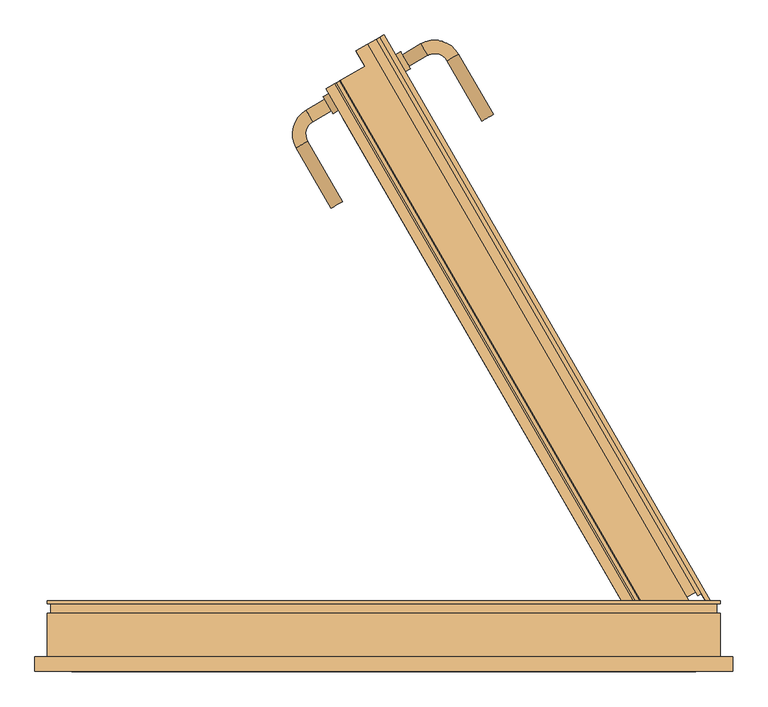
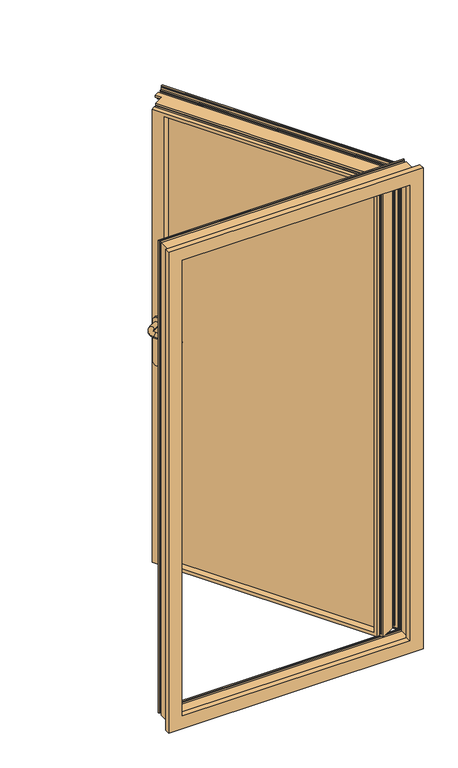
"""IFC4 building model written with IfcOpenShell, lengths in millimetres: door geometry, Comfort+_CID-1_Metaglas : Comfort+_CID-1_Metaglas."""

from ifc_helpers import new_model, si_unit, point, frame, frame_2d, origin, place, context, project, spatial, polyline, circle_curve, ellipse_curve, trimmed, segment, composite_curve, outline, extrude, faceted_brep, source, transform, mapped, element, save
from ifc_brep_helpers import plane_surface, cylinder_surface, revolved_surface, advanced_brep


def door_f65b9b94(model_context):
    return source(origin(), model_context, "Body", "SolidModel", [
        extrude(outline(composite_curve([segment(polyline([(-142.592674, 0.0), (30.413355, 0.0)]), True, "CONTINUOUS"), segment(trimmed(circle_curve(frame_2d((30.413355, -14.0)), 14.0), [point((30.413355, 0.0))], [point((30.413355, -28.0000001))], False, "CARTESIAN"), True, "CONTINUOUS"), segment(polyline([(30.413355, -28.0000001), (-142.592674, -28.0000001)]), True, "CONTINUOUS"), segment(trimmed(circle_curve(frame_2d((-142.592674, -14.0)), 14.0), [point((-142.592674, -28.0000001))], [point((-142.592674, 0.0))], False, "CARTESIAN"), True, "CONTINUOUS")], self_intersect=False)), frame((-86.9034117, 773.3209521, 1040.9152867), z_axis=(0.8660254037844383, 0.5000000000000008, 0.0), x_axis=(0.0, 0.0, -1.0)), (0.0, 0.0, 1.0), 9.0),
        advanced_brep(
        [(-84.6534117, 769.4238377, 1170.0), (-75.1534117, 752.9693551, 1170.0), (-111.0671865, 754.1738377, 1170.0), (-101.5671865, 737.7193551, 1170.0), (-109.0707073, 709.7158343, 1170.0), (-125.5251899, 700.2158343, 1170.0), (-75.5251899, 613.6132939, 1170.0), (-59.0707073, 623.1132939, 1170.0)],
        [
            (0, 1, circle_curve(frame((-79.9034117, 761.1965964, 1170.0), z_axis=(0.8660254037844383, 0.5000000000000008, 0.0), x_axis=(0.5000000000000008, -0.8660254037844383, 0.0)), 9.5)),
            (1, 0, circle_curve(frame((-79.9034117, 761.1965964, 1170.0), z_axis=(0.8660254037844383, 0.5000000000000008, 0.0), x_axis=(0.5000000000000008, -0.8660254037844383, 0.0)), 9.5)),
            (0, 2),
            (2, 3, circle_curve(frame((-106.3171865, 745.9465964, 1170.0), z_axis=(0.8660254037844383, 0.5000000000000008, 0.0), x_axis=(0.5000000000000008, -0.8660254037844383, 0.0)), 9.5)),
            (3, 1),
            (3, 2, circle_curve(frame((-106.3171865, 745.9465964, 1170.0), z_axis=(0.8660254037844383, 0.5000000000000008, 0.0), x_axis=(0.5000000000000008, -0.8660254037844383, 0.0)), 9.5)),
            (4, 3, circle_curve(frame((-91.3171865, 719.9658343, 1170.0), z_axis=(0.0, 0.0, -1.0), x_axis=(-0.5000000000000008, 0.8660254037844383, 0.0)), 20.5)),
            (2, 5, circle_curve(frame((-91.3171865, 719.9658343, 1170.0), z_axis=(0.0, 0.0, 1.0), x_axis=(-0.5000000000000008, 0.8660254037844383, 0.0)), 39.5)),
            (5, 4, circle_curve(frame((-117.2979486, 704.9658343, 1170.0), z_axis=(-0.49999999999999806, 0.8660254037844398, 0.0), x_axis=(0.8660254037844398, 0.49999999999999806, 0.0)), 9.5)),
            (4, 5, circle_curve(frame((-117.2979486, 704.9658343, 1170.0), z_axis=(-0.4999999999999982, 0.8660254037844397, 0.0), x_axis=(0.8660254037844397, 0.4999999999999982, 0.0)), 9.5)),
            (6, 7, circle_curve(frame((-67.2979486, 618.3632939, 1170.0), z_axis=(0.49999999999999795, -0.8660254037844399, 0.0), x_axis=(0.8660254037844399, 0.49999999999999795, 0.0)), 9.5)),
            (7, 6, circle_curve(frame((-67.2979486, 618.3632939, 1170.0), z_axis=(0.49999999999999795, -0.8660254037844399, 0.0), x_axis=(0.8660254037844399, 0.49999999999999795, 0.0)), 9.5)),
            (5, 6),
            (7, 4),
        ],
        [
            plane_surface(frame((-79.9034117, 761.1965964, 1170.0), z_axis=(0.8660254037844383, 0.5000000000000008, 0.0), x_axis=(0.0, 0.0, 1.0))),
            cylinder_surface(frame((-79.9034117, 761.1965964, 1170.0), z_axis=(0.8660254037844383, 0.5000000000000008, 0.0), x_axis=(0.5000000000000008, -0.8660254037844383, 0.0)), 9.5),
            revolved_surface(trimmed(ellipse_curve(frame((-106.3171865, 745.9465964, 1170.0), z_axis=(0.8660254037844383, 0.5000000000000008, 0.0), x_axis=(0.5000000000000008, -0.8660254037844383, 0.0)), 9.5, 9.5), [point((-111.0671865, 754.1738377, 1170.0))], [point((-101.5671865, 737.7193551, 1170.0))], True, "CARTESIAN"), (-91.3171865, 719.9658343, 1170.0), (0.0, 0.0, 1.0)),
            revolved_surface(trimmed(ellipse_curve(frame((-106.3171865, 745.9465964, 1170.0), z_axis=(0.8660254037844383, 0.5000000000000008, 0.0), x_axis=(0.5000000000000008, -0.8660254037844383, 0.0)), 9.5, 9.5), [point((-101.5671865, 737.7193551, 1170.0))], [point((-111.0671865, 754.1738377, 1170.0))], True, "CARTESIAN"), (-91.3171865, 719.9658343, 1170.0), (0.0, 0.0, 1.0)),
            plane_surface(frame((-67.2979486, 618.3632939, 1170.0), z_axis=(0.49999999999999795, -0.8660254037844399, 0.0), x_axis=(0.0, 0.0, 1.0))),
            cylinder_surface(frame((-117.2979486, 704.9658343, 1170.0), z_axis=(-0.49999999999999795, 0.8660254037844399, 0.0), x_axis=(0.8660254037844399, 0.49999999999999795, 0.0)), 9.5),
        ],
        [
            (0, [[1, 2]]),
            (1, [[-1, 3, 4, 5]]),
            (1, [[-2, -5, 6, -3]]),
            (2, [[7, -4, 8, 9]]),
            (3, [[-8, -6, -7, 10]]),
            (4, [[11, 12]]),
            (5, [[-9, 13, -12, 14]]),
            (5, [[-10, -14, -11, -13]]),
        ],
    ),
        extrude(outline(composite_curve([segment(polyline([(142.592674, 0.0), (-30.413355, 0.0)]), True, "CONTINUOUS"), segment(trimmed(circle_curve(frame_2d((-30.413355, 14.0)), 14.0), [point((-30.413355, 0.0))], [point((-30.413355, 28.0))], False, "CARTESIAN"), True, "CONTINUOUS"), segment(polyline([(-30.413355, 28.0), (142.592674, 28.0)]), True, "CONTINUOUS"), segment(trimmed(circle_curve(frame_2d((142.592674, 14.0)), 14.0), [point((142.592674, 28.0))], [point((142.592674, 0.0))], False, "CARTESIAN"), True, "CONTINUOUS")], self_intersect=False)), frame((16.5, 833.0209396, 1040.9152867), z_axis=(0.8660254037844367, 0.5000000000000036, 0.0), x_axis=(0.0, 0.0, 1.0)), (0.0, 0.0, 1.0), 9.0),
        advanced_brep(
        [(26.5442286, 833.6238253, 1170.0), (36.0442286, 817.1693426, 1170.0), (62.4580034, 832.4193426, 1170.0), (52.9580034, 848.8738253, 1170.0), (90.4615242, 824.9158218, 1170.0), (106.9160069, 834.4158218, 1170.0), (156.9160069, 747.8132815, 1170.0), (140.4615242, 738.3132815, 1170.0)],
        [
            (0, 1, circle_curve(frame((31.2942286, 825.396584, 1170.0), z_axis=(-0.8660254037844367, -0.5000000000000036, 0.0), x_axis=(0.5000000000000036, -0.8660254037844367, 0.0)), 9.5)),
            (1, 0, circle_curve(frame((31.2942286, 825.396584, 1170.0), z_axis=(-0.8660254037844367, -0.5000000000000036, 0.0), x_axis=(0.5000000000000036, -0.8660254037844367, 0.0)), 9.5)),
            (1, 2),
            (2, 3, circle_curve(frame((57.7080034, 840.646584, 1170.0), z_axis=(-0.8660254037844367, -0.5000000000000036, 0.0), x_axis=(0.5000000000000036, -0.8660254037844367, 0.0)), 9.5)),
            (3, 0),
            (3, 2, circle_curve(frame((57.7080034, 840.646584, 1170.0), z_axis=(-0.8660254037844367, -0.5000000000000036, 0.0), x_axis=(0.5000000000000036, -0.8660254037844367, 0.0)), 9.5)),
            (4, 5, circle_curve(frame((98.6887656, 829.6658218, 1170.0), z_axis=(-0.5000000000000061, 0.8660254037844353, 0.0), x_axis=(-0.8660254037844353, -0.5000000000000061, 0.0)), 9.5)),
            (5, 3, circle_curve(frame((72.7080034, 814.6658218, 1170.0), z_axis=(0.0, 0.0, 1.0), x_axis=(-0.5000000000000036, 0.8660254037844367, 0.0)), 39.5)),
            (2, 4, circle_curve(frame((72.7080034, 814.6658218, 1170.0), z_axis=(0.0, 0.0, -1.0), x_axis=(-0.5000000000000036, 0.8660254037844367, 0.0)), 20.5)),
            (5, 4, circle_curve(frame((98.6887656, 829.6658218, 1170.0), z_axis=(-0.5000000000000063, 0.8660254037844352, 0.0), x_axis=(-0.8660254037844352, -0.5000000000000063, 0.0)), 9.5)),
            (6, 7, circle_curve(frame((148.6887656, 743.0632815, 1170.0), z_axis=(0.5000000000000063, -0.866025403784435, 0.0), x_axis=(-0.866025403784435, -0.5000000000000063, 0.0)), 9.5)),
            (7, 6, circle_curve(frame((148.6887656, 743.0632815, 1170.0), z_axis=(0.5000000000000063, -0.866025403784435, 0.0), x_axis=(-0.866025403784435, -0.5000000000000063, 0.0)), 9.5)),
            (4, 7),
            (6, 5),
        ],
        [
            plane_surface(frame((31.2942286, 825.396584, 1170.0), z_axis=(-0.8660254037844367, -0.5000000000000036, 0.0), x_axis=(0.0, 0.0, 1.0))),
            cylinder_surface(frame((31.2942286, 825.396584, 1170.0), z_axis=(-0.8660254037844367, -0.5000000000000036, 0.0), x_axis=(0.5000000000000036, -0.8660254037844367, 0.0)), 9.5),
            revolved_surface(trimmed(ellipse_curve(frame((57.7080034, 840.646584, 1170.0), z_axis=(0.8660254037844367, 0.5000000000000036, 0.0), x_axis=(0.5000000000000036, -0.8660254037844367, 0.0)), 9.5, 9.5), [point((52.9580034, 848.8738253, 1170.0))], [point((62.4580034, 832.4193426, 1170.0))], True, "CARTESIAN"), (72.7080034, 814.6658218, 1170.0), (0.0, 0.0, 1.0000000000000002)),
            revolved_surface(trimmed(ellipse_curve(frame((57.7080034, 840.646584, 1170.0), z_axis=(0.8660254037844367, 0.5000000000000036, 0.0), x_axis=(0.5000000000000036, -0.8660254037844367, 0.0)), 9.5, 9.5), [point((62.4580034, 832.4193426, 1170.0))], [point((52.9580034, 848.8738253, 1170.0))], True, "CARTESIAN"), (72.7080034, 814.6658218, 1170.0), (0.0, 0.0, 1.0000000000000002)),
            plane_surface(frame((148.6887656, 743.0632815, 1170.0), z_axis=(0.5000000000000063, -0.866025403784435, 0.0), x_axis=(0.0, 0.0, 1.0))),
            cylinder_surface(frame((98.6887656, 829.6658218, 1170.0), z_axis=(-0.5000000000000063, 0.866025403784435, 0.0), x_axis=(-0.866025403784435, -0.5000000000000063, 0.0)), 9.5),
        ],
        [
            (0, [[1, 2]]),
            (1, [[3, 4, 5, -2]]),
            (1, [[-5, 6, -3, -1]]),
            (2, [[7, 8, -4, 9]]),
            (3, [[10, -9, -6, -8]]),
            (4, [[11, 12]]),
            (5, [[13, -11, 14, -7]]),
            (5, [[-14, -12, -13, -10]]),
        ],
    ),
        extrude(outline(polyline([(1.8051363, 790.4731902), (423.8051363, 59.5477494), (418.6089838, 56.5477494), (-3.3910162, 787.4731902), (1.8051363, 790.4731902)])), frame((0.0, 0.0, 166.0), z_axis=(0.0, 0.0, 1.0), x_axis=(1.0, 0.0, 0.0)), (0.0, 0.0, 1.0), 1884.0),
        extrude(outline(polyline([(-16.3813972, 779.9731902), (405.6186028, 49.0477494), (401.7214885, 46.7977494), (-20.2785115, 777.7231902), (-16.3813972, 779.9731902)])), frame((0.0, 0.0, 166.0), z_axis=(0.0, 0.0, 1.0), x_axis=(1.0, 0.0, 0.0)), (0.0, 0.0, 1.0), 1884.0),
        extrude(outline(polyline([(-33.2688926, 770.2231902), (388.7311074, 39.2977494), (383.534955, 36.2977494), (-38.465045, 767.2231902), (-33.2688926, 770.2231902)])), frame((0.0, 0.0, 166.0), z_axis=(0.0, 0.0, 1.0), x_axis=(1.0, 0.0, 0.0)), (0.0, 0.0, 1.0), 1884.0),
        extrude(outline(polyline([(844.0, -1884.0), (0.0, -1884.0), (0.0, 0.0), (844.0, 0.0), (844.0, -1884.0)]), holes=[polyline([(832.0, -12.0), (12.0, -12.0), (12.0, -1872.0), (832.0, -1872.0), (832.0, -12.0)])]), frame((405.6186028, 49.0477494, 2050.0), z_axis=(0.8660254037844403, 0.4999999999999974, 0.0), x_axis=(-0.4999999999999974, 0.8660254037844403, 0.0)), (0.0, 0.0, 1.0), 15.0),
        extrude(outline(polyline([(844.0, -1884.0), (0.0, -1884.0), (0.0, 0.0), (844.0, 0.0), (844.0, -1884.0)]), holes=[polyline([(832.0, -12.0), (12.0, -12.0), (12.0, -1872.0), (832.0, -1872.0), (832.0, -12.0)])]), frame((388.7311074, 39.2977494, 2050.0), z_axis=(0.8660254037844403, 0.4999999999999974, 0.0), x_axis=(-0.4999999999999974, 0.8660254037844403, 0.0)), (0.0, 0.0, 1.0), 15.0),
        faceted_brep([(-27.7128081, 845.5997808, 2035.9999691), (-27.7128081, 845.5997808, 2052.0999691), (-39.623621, 838.7230697, 2052.0999691), (-39.623621, 838.7230697, 2060.5013297), (-23.3393798, 848.1247808, 2060.5013297), (-23.3393798, 848.1247808, 2059.0), (-25.5044433, 846.8747808, 2059.0), (-25.5044433, 846.8747808, 2055.993792), (-23.3393798, 848.1247808, 2055.993792), (-23.3393798, 848.1247808, 2054.50005), (-10.3498012, 855.6243175, 2054.50005), (-10.3498012, 855.6243175, 2056.00002), (-8.1841894, 856.874634, 2056.00002), (-8.1841894, 856.874634, 2059.0), (-10.3498012, 855.6243175, 2059.0), (-10.3498012, 855.6243175, 2060.5013297), (-5.1961476, 858.5997808, 2060.5013297), (-5.1961476, 858.5997808, 2070.0431852), (-2.2917701, 860.2766239, 2070.0431852), (-2.2917701, 860.2766239, 2073.9068148), (-5.1961476, 858.5997808, 2073.9068148), (-5.1961476, 858.5997808, 2076.0), (0.0, 861.5997779, 2076.0), (0.0, 861.5997779, 140.0), (-5.1961476, 858.5997808, 140.0), (-5.1961476, 858.5997808, 142.0931852), (-2.2917701, 860.2766239, 142.0931852), (-2.2917701, 860.2766239, 145.9568148), (-5.1961476, 858.5997808, 145.9568148), (-5.1961476, 858.5997808, 155.4986703), (-10.3498012, 855.6243175, 155.4986703), (-10.3498012, 855.6243175, 157.0), (-8.1841894, 856.874634, 157.0), (-8.1841894, 856.874634, 159.99998), (-10.3498012, 855.6243175, 159.99998), (-10.3498012, 855.6243175, 161.49995), (-23.3393798, 848.1247808, 161.49995), (-23.3393798, 848.1247808, 160.006208), (-25.5044433, 846.8747808, 160.006208), (-25.5044433, 846.8747808, 157.0), (-23.3393798, 848.1247808, 157.0), (-23.3393798, 848.1247808, 155.4986703), (-39.623621, 838.7230697, 155.4986703), (-39.623621, 838.7230697, 163.9000309), (-27.7128081, 845.5997808, 163.9000309), (-27.7128081, 845.5997808, 180.0000309), (-5.1961476, 858.5997808, 180.0000309), (-5.1961476, 858.5997808, 2035.9999691), (468.0, 51.0, 2076.0), (468.0, 51.0, 140.0), (447.9999845, 85.6410429, 180.0000309), (447.9999845, 85.6410429, 2035.9999691), (36.5, 798.3799235, 2035.9999691), (36.5, 798.3799235, 180.0000309), (462.8038524, 48.0000028, 140.0), (461.7572599, 49.8127543, 2073.9068148), (461.7572599, 49.8127543, 142.0931852), (462.8038524, 48.0000028, 2076.0), (464.6616374, 51.4895975, 142.0931852), (462.7298225, 54.8355989, 2070.0431852), (462.7298225, 54.8355989, 145.9568148), (464.6616374, 51.4895975, 2073.9068148), (459.825445, 53.1587558, 145.9568148), (455.0545173, 61.422245, 2060.5013297), (455.0545173, 61.422245, 155.4986703), (459.825445, 53.1587558, 2070.0431852), (449.9008637, 58.4467817, 155.4986703), (449.1501988, 59.7469714, 2059.0), (449.1501988, 59.7469714, 157.0), (449.9008637, 58.4467817, 2060.5013297), (451.3158106, 60.9972879, 157.0), (449.8158206, 63.5953468, 2056.00002), (449.8158206, 63.5953468, 159.99998), (451.3158106, 60.9972879, 2059.0), (447.6502088, 62.3450303, 159.99998), (446.9002238, 63.6440424, 2054.50005), (446.9002238, 63.6440424, 161.49995), (447.6502088, 62.3450303, 2056.00002), (433.9106452, 56.1445057, 161.49995), (434.6575163, 54.8508871, 2055.993792), (434.6575163, 54.8508871, 160.006208), (433.9106452, 56.1445057, 2054.50005), (432.4924527, 53.6008871, 160.006208), (433.9955567, 50.9974347, 2059.0), (433.9955567, 50.9974347, 157.0), (432.4924527, 53.6008871, 2055.993792), (436.1606202, 52.2474347, 157.0), (436.9112851, 50.947245, 2060.5013297), (436.9112851, 50.947245, 155.4986703), (436.1606202, 52.2474347, 2059.0), (385.8591042, 21.4722547, 155.4986703), (-61.6657516, 796.6080426, 155.4986703), (-26.897812, 816.6813219, 155.4986703), (381.8347955, 28.4425618, 2052.4527122), (381.8347955, 28.4425618, 163.5472878), (-61.6657516, 796.6080426, 163.5472878), (385.8591042, 21.4722547, 2060.5013297), (-61.6657516, 796.6080426, 2060.5013297), (-61.6657516, 796.6080426, 2052.4527122), (379.0306335, 29.1939348, 165.6000768), (-63.4435191, 795.5816481, 165.6000768), (374.7245725, 26.7078293, 165.6000768), (-67.7495801, 793.0955426, 165.6000768), (373.5495725, 28.742989, 2048.0499232), (373.5495725, 28.742989, 167.9500768), (-67.7495801, 793.0955426, 167.9500768), (374.7245725, 26.7078293, 2050.3999232), (-67.7495801, 793.0955426, 2050.3999232), (-67.7495801, 793.0955426, 2048.0499232), (370.9947976, 27.267989, 167.9500768), (-70.304355, 791.6205426, 167.9500768), (372.1697976, 25.2328293, 2050.3999232), (372.1697976, 25.2328293, 165.6000768), (-70.304355, 791.6205426, 165.6000768), (370.9947976, 27.267989, 2048.0499232), (-70.304355, 791.6205426, 2048.0499232), (-70.304355, 791.6205426, 2050.3999232), (359.5907786, 17.9703293, 165.6000768), (-82.883374, 784.3580426, 165.6000768), (359.5907786, 17.9703293, 2050.3999232), (-82.883374, 784.3580426, 2050.3999232), (352.3908015, 30.4410554, 2035.9999691), (352.3908015, 30.4410554, 180.0000309), (-59.109183, 743.1799359, 180.0000309), (-59.109183, 743.1799359, 2035.9999691), (-66.5745801, 791.0603829, 180.0000309), (-67.7495801, 793.0955426, 180.0000309), (-70.304355, 791.6205426, 180.0000309), (-69.129355, 789.5853829, 180.0000309), (-37.8350806, 758.3321097, 180.0000309), (-39.7703029, 761.6840129, 180.0000309), (-42.5505249, 760.078851, 180.0000309), (-40.6153027, 756.7269477, 180.0000309), (374.907462, 43.4410554, 180.0000309), (-36.5925225, 756.1799359, 180.0000309), (376.1023509, 41.3714471, 2038.3897468), (376.1023509, 41.3714471, 177.6102532), (-60.3667135, 797.3580426, 177.6102532), (-60.3667135, 797.3580426, 180.0000309), (-44.9917311, 770.7277918, 180.0000309), (-44.9917311, 770.7277918, 2035.9999691), (-60.3667135, 797.3580426, 2035.9999691), (-60.3667135, 797.3580426, 2038.3897468), (374.907462, 43.4410554, 2035.9999691), (-36.5925225, 756.1799359, 2035.9999691), (-37.8350806, 758.3321097, 2035.9999691), (-39.7703029, 761.6840129, 2035.9999691), (373.3221288, 39.7662852, 177.6102532), (-63.1469355, 795.7528806, 177.6102532), (375.2573511, 36.4143819, 2042.2601913), (375.2573511, 36.4143819, 173.7398087), (-63.1469355, 795.7528806, 173.7398087), (373.3221288, 39.7662852, 2038.3897468), (-63.1469355, 795.7528806, 2038.3897468), (-63.1469355, 795.7528806, 2042.2601913), (378.0375731, 38.0195439, 173.7398087), (-60.3667135, 797.3580426, 173.7398087), (381.5942053, 31.8592763, 2049.3734556), (381.5942053, 31.8592763, 166.6265444), (-60.3667135, 797.3580426, 166.6265444), (378.0375731, 38.0195439, 2042.2601913), (-60.3667135, 797.3580426, 2042.2601913), (-60.3667135, 797.3580426, 2049.3734556), (383.8283795, 30.0008708, 163.9000309), (-59.495796, 797.860867, 163.9000309), (428.3371765, 55.6980367, 163.9000309), (-26.897812, 816.6813219, 163.9000309), (-20.0376779, 832.3060654, 2035.9999691), (0.3879834, 796.9277822, 2035.9999691), (0.3879834, 796.9277822, 180.0000309), (-20.0376779, 832.3060654, 180.0000309), (428.3371765, 55.6980367, 2052.0999691), (420.2871765, 69.6410457, 2035.9999691), (420.2871765, 69.6410457, 180.0000309), (8.7871919, 782.3799263, 180.0000309), (8.7871919, 782.3799263, 2035.9999691), (-15.6642496, 834.8310654, 180.0000309), (-14.9135848, 833.5308758, 180.0000309), (-17.0786483, 832.2808758, 180.0000309), (-15.5755443, 829.6774233, 180.0000309), (-13.4104808, 830.9274233, 180.0000309), (-12.6636098, 829.6338047, 180.0000309), (0.3259688, 837.1333415, 180.0000309), (-0.4240162, 838.4323536, 180.0000309), (1.7415955, 839.6826701, 180.0000309), (0.2416055, 842.280729, 180.0000309), (-1.9240062, 841.0304125, 180.0000309), (-2.674671, 842.3306021, 180.0000309), (2.4789826, 845.3060654, 180.0000309), (-2.2919452, 853.5695547, 180.0000309), (0.6124323, 855.2463978, 180.0000309), (-1.3193825, 858.5923992, 180.0000309), (-4.22376, 856.9155561, 180.0000309), (-4.22376, 856.9155561, 2035.9999691), (-26.897812, 816.6813219, 180.0000309), (-31.9484908, 825.4293544, 180.0000309), (383.8283795, 30.0008708, 2052.0999691), (-42.5505249, 760.078851, 2035.9999691), (-40.6153027, 756.7269477, 2035.9999691), (379.0306335, 29.1939348, 2050.3999232), (-15.6642496, 834.8310654, 2035.9999691), (-31.9484908, 825.4293544, 2035.9999691), (-14.9135848, 833.5308758, 2035.9999691), (-17.0786483, 832.2808758, 2035.9999691), (-15.5755443, 829.6774233, 2035.9999691), (-13.4104808, 830.9274233, 2035.9999691), (-12.6636098, 829.6338047, 2035.9999691), (0.3259688, 837.1333415, 2035.9999691), (-0.4240162, 838.4323536, 2035.9999691), (1.7415955, 839.6826701, 2035.9999691), (0.2416055, 842.280729, 2035.9999691), (-1.9240062, 841.0304125, 2035.9999691), (-2.674671, 842.3306021, 2035.9999691), (2.4789826, 845.3060654, 2035.9999691), (-2.2919452, 853.5695547, 2035.9999691), (0.6124323, 855.2463978, 2035.9999691), (-1.3193825, 858.5923992, 2035.9999691), (-69.129355, 789.5853829, 2035.9999691), (-70.304355, 791.6205426, 2035.9999691), (-66.5745801, 791.0603829, 2035.9999691), (-67.7495801, 793.0955426, 2035.9999691), (-63.4435191, 795.5816481, 2050.3999232), (-26.897812, 816.6813219, 2060.5013297), (-26.897812, 816.6813219, 2052.0999691), (-59.495796, 797.860867, 2052.0999691), (-26.897812, 816.6813219, 2035.9999691)], [[[0, 1, 2, 3, 4, 5, 6, 7, 8, 9, 10, 11, 12, 13, 14, 15, 16, 17, 18, 19, 20, 21, 22, 23, 24, 25, 26, 27, 28, 29, 30, 31, 32, 33, 34, 35, 36, 37, 38, 39, 40, 41, 42, 43, 44, 45, 46, 47]], [[22, 48, 49, 23], [50, 51, 52, 53]], [[54, 24, 23, 49]], [[21, 20, 55, 56, 25, 24, 54, 57]], [[58, 26, 25, 56]], [[19, 18, 59, 60, 27, 26, 58, 61]], [[62, 28, 27, 60]], [[17, 16, 63, 64, 29, 28, 62, 65]], [[66, 30, 29, 64]], [[15, 14, 67, 68, 31, 30, 66, 69]], [[70, 32, 31, 68]], [[13, 12, 71, 72, 33, 32, 70, 73]], [[74, 34, 33, 72]], [[11, 10, 75, 76, 35, 34, 74, 77]], [[78, 36, 35, 76]], [[9, 8, 79, 80, 37, 36, 78, 81]], [[82, 38, 37, 80]], [[7, 6, 83, 84, 39, 38, 82, 85]], [[86, 40, 39, 84]], [[5, 4, 87, 88, 41, 40, 86, 89]], [[41, 88, 90, 91, 92, 42]], [[93, 94, 95, 91, 90, 96, 97, 98]], [[94, 99, 100, 95]], [[99, 101, 102, 100]], [[103, 104, 105, 102, 101, 106, 107, 108]], [[104, 109, 110, 105]], [[111, 112, 113, 110, 109, 114, 115, 116]], [[112, 117, 118, 113]], [[117, 119, 120, 118], [121, 122, 123, 124]], [[125, 126, 127, 128]], [[129, 130, 131, 132]], [[122, 133, 134, 123]], [[135, 136, 137, 138, 139, 140, 141, 142], [133, 143, 144, 134], [129, 145, 146, 130]], [[136, 147, 148, 137]], [[149, 150, 151, 148, 147, 152, 153, 154]], [[150, 155, 156, 151]], [[157, 158, 159, 156, 155, 160, 161, 162]], [[158, 163, 164, 159]], [[165, 44, 43, 166, 164, 163]], [[1, 0, 167, 168, 169, 170, 45, 44, 165, 171], [172, 173, 174, 175]], [[45, 170, 176, 177, 178, 179, 180, 181, 182, 183, 184, 185, 186, 187, 188, 189, 190, 191, 192, 46]], [[173, 50, 53, 174]], [[47, 46, 192, 193]], [[168, 140, 139, 169]], [[169, 139, 138, 194, 195, 170]], [[171, 165, 163, 196]], [[53, 52, 175, 174]], [[172, 51, 50, 173]], [[157, 196, 163, 158]], [[160, 155, 150, 149]], [[152, 147, 136, 135]], [[124, 123, 134, 144]], [[143, 133, 122, 121]], [[197, 131, 130, 146]], [[145, 129, 132, 198]], [[119, 117, 112, 111]], [[114, 109, 104, 103]], [[106, 101, 99, 199]], [[93, 199, 99, 94]], [[96, 90, 88, 87]], [[89, 86, 84, 83]], [[85, 82, 80, 79]], [[81, 78, 76, 75]], [[77, 74, 72, 71]], [[73, 70, 68, 67]], [[69, 66, 64, 63]], [[65, 62, 60, 59]], [[61, 58, 56, 55]], [[57, 54, 49, 48]], [[200, 176, 170, 195, 201, 167]], [[202, 177, 176, 200]], [[203, 178, 177, 202]], [[204, 179, 178, 203]], [[205, 180, 179, 204]], [[206, 181, 180, 205]], [[207, 182, 181, 206]], [[208, 183, 182, 207]], [[209, 184, 183, 208]], [[210, 185, 184, 209]], [[211, 186, 185, 210]], [[212, 187, 186, 211]], [[213, 188, 187, 212]], [[214, 189, 188, 213]], [[215, 190, 189, 214]], [[216, 191, 190, 215]], [[193, 192, 191, 216]], [[217, 128, 127, 218]], [[219, 125, 128, 217]], [[220, 126, 125, 219]], [[120, 116, 115, 108, 107, 221, 98, 97, 222, 223, 224, 162, 161, 154, 153, 142, 141, 225, 194, 138, 137, 148, 151, 156, 159, 164, 166, 92, 91, 95, 100, 102, 105, 110, 113, 118], [126, 220, 218, 127]], [[198, 132, 131, 197]], [[0, 47, 193, 216, 215, 214, 213, 212, 211, 210, 209, 208, 207, 206, 205, 204, 203, 202, 200, 167]], [[51, 172, 175, 52]], [[1, 171, 196, 224, 223, 2]], [[196, 157, 162, 224]], [[160, 149, 154, 161]], [[152, 135, 142, 153]], [[143, 121, 124, 144]], [[146, 145, 198, 197]], [[220, 219, 217, 218]], [[119, 111, 116, 120]], [[114, 103, 108, 115]], [[106, 199, 221, 107]], [[199, 93, 98, 221]], [[96, 87, 4, 3, 222, 97]], [[6, 5, 89, 83]], [[8, 7, 85, 79]], [[10, 9, 81, 75]], [[12, 11, 77, 71]], [[14, 13, 73, 67]], [[16, 15, 69, 63]], [[18, 17, 65, 59]], [[20, 19, 61, 55]], [[22, 21, 57, 48]], [[140, 168, 167, 201, 225, 141]], [[92, 166, 43, 42]], [[194, 225, 201, 195]], [[223, 222, 3, 2]]]),
        faceted_brep([(-500.0, -29.0, 2108.0), (-500.0, -29.0, 108.0), (-500.0, -50.0, 108.0), (-500.0, -50.0, 2108.0), (500.0, -50.0, 108.0), (500.0, -50.0, 2108.0), (-447.0, -50.0, 161.0), (-447.0, -50.0, 2055.0), (447.0, -50.0, 2055.0), (447.0, -50.0, 161.0), (500.0, -29.0, 108.0), (500.0, -29.0, 2108.0), (-492.8725928, -29.0, 2100.8725928), (-492.8725928, -29.0, 115.1274072), (492.8725928, -29.0, 115.1274072), (492.8725928, -29.0, 2100.8725928), (-492.8725928, -32.3779162, 2100.8725928), (-492.8725928, -32.3779162, 115.1274072), (492.8725928, -32.3779162, 115.1274072), (492.8725928, -32.3779162, 2100.8725928), (-489.0089631, -32.3779162, 2097.0089631), (-489.0089631, -32.3779162, 118.9910369), (489.0089631, -32.3779162, 118.9910369), (489.0089631, -32.3779162, 2097.0089631), (-489.0089631, -29.0, 2097.0089631), (-489.0089631, -29.0, 118.9910369), (489.0089631, -29.0, 118.9910369), (489.0089631, -29.0, 2097.0089631), (-482.0, -29.0, 2090.0), (-482.0, -29.0, 126.0), (482.0, -29.0, 126.0), (482.0, -29.0, 2090.0), (-482.0, 33.0, 2090.0), (-482.0, 33.0, 126.0), (482.0, 33.0, 126.0), (482.0, 33.0, 2090.0), (-477.5, 33.0, 2085.5), (-477.5, 33.0, 130.5), (477.5, 33.0, 130.5), (477.5, 33.0, 2085.5), (-477.5, 47.0, 2085.5), (-477.5, 47.0, 130.5), (477.5, 47.0, 130.5), (-482.0, 47.0, 2090.0), (-482.0, 47.0, 126.0), (482.0, 47.0, 126.0), (482.0, 47.0, 2090.0), (477.5, 47.0, 2085.5), (-482.0, 51.0, 2090.0), (-482.0, 51.0, 126.0), (482.0, 51.0, 126.0), (482.0, 51.0, 2090.0), (-465.0, 51.0, 2073.0), (-465.0, 51.0, 143.0), (465.0, 51.0, 143.0), (465.0, 51.0, 2073.0), (-465.0, 47.0, 2073.0), (-465.0, 47.0, 143.0), (465.0, 47.0, 143.0), (-469.5, 47.0, 2077.5), (-469.5, 47.0, 138.5), (469.5, 47.0, 138.5), (469.5, 47.0, 2077.5), (465.0, 47.0, 2073.0), (-469.5, 33.0, 2077.5), (-469.5, 33.0, 138.5), (469.5, 33.0, 138.5), (469.5, 33.0, 2077.5), (-465.0, 33.0, 2073.0), (-465.0, 33.0, 143.0), (465.0, 33.0, 143.0), (465.0, 33.0, 2073.0), (-465.0, -29.0, 2073.0), (-465.0, -29.0, 143.0), (465.0, -29.0, 143.0), (465.0, -29.0, 2073.0), (-457.9910369, -29.0, 2065.9910369), (-457.9910369, -29.0, 150.0089631), (457.9910369, -29.0, 150.0089631), (457.9910369, -29.0, 2065.9910369), (-457.9910369, -32.3779162, 2065.9910369), (-457.9910369, -32.3779162, 150.0089631), (457.9910369, -32.3779162, 150.0089631), (457.9910369, -32.3779162, 2065.9910369), (-454.1274072, -32.3779162, 2062.1274072), (-454.1274072, -32.3779162, 153.8725928), (454.1274072, -32.3779162, 153.8725928), (454.1274072, -32.3779162, 2062.1274072), (-454.1274072, -29.0, 2062.1274072), (-454.1274072, -29.0, 153.8725928), (454.1274072, -29.0, 153.8725928), (454.1274072, -29.0, 2062.1274072), (-447.0, -29.0, 2055.0), (-447.0, -29.0, 161.0), (447.0, -29.0, 161.0), (447.0, -29.0, 2055.0)], [[[0, 1, 2, 3]], [[3, 2, 4, 5], [6, 7, 8, 9]], [[1, 10, 4, 2]], [[1, 0, 11, 10], [12, 13, 14, 15]], [[16, 17, 13, 12]], [[17, 18, 14, 13]], [[17, 16, 19, 18], [20, 21, 22, 23]], [[24, 25, 21, 20]], [[25, 26, 22, 21]], [[25, 24, 27, 26], [28, 29, 30, 31]], [[32, 33, 29, 28]], [[33, 34, 30, 29]], [[33, 32, 35, 34], [36, 37, 38, 39]], [[40, 41, 37, 36]], [[41, 42, 38, 37]], [[43, 44, 45, 46], [41, 40, 47, 42]], [[48, 49, 44, 43]], [[49, 50, 45, 44]], [[49, 48, 51, 50], [52, 53, 54, 55]], [[56, 57, 53, 52]], [[57, 58, 54, 53]], [[59, 60, 61, 62], [57, 56, 63, 58]], [[64, 65, 60, 59]], [[65, 66, 61, 60]], [[65, 64, 67, 66], [68, 69, 70, 71]], [[72, 73, 69, 68]], [[73, 74, 70, 69]], [[73, 72, 75, 74], [76, 77, 78, 79]], [[80, 81, 77, 76]], [[81, 82, 78, 77]], [[81, 80, 83, 82], [84, 85, 86, 87]], [[88, 89, 85, 84]], [[89, 90, 86, 85]], [[89, 88, 91, 90], [92, 93, 94, 95]], [[7, 6, 93, 92]], [[6, 9, 94, 93]], [[10, 11, 5, 4]], [[18, 19, 15, 14]], [[26, 27, 23, 22]], [[34, 35, 31, 30]], [[42, 47, 39, 38]], [[50, 51, 46, 45]], [[58, 63, 55, 54]], [[66, 67, 62, 61]], [[74, 75, 71, 70]], [[82, 83, 79, 78]], [[90, 91, 87, 86]], [[9, 8, 95, 94]], [[11, 0, 3, 5]], [[19, 16, 12, 15]], [[27, 24, 20, 23]], [[35, 32, 28, 31]], [[47, 40, 36, 39]], [[51, 48, 43, 46]], [[63, 56, 52, 55]], [[67, 64, 59, 62]], [[75, 72, 68, 71]], [[83, 80, 76, 79]], [[91, 88, 84, 87]], [[8, 7, 92, 95]]]),
    ])


if __name__ == "__main__":
    model = new_model("IFC4")
    model_context = context("Model", 3, world=origin())
    ifc_project = project(units=[si_unit("LENGTHUNIT", "METRE", prefix="MILLI")], contexts=[model_context])
    site = spatial("IfcSite", under=ifc_project)
    building = spatial("IfcBuilding", under=site)
    placement = place(None, origin())
    door_shape = door_f65b9b94(model_context)
    element("IfcDoor", 1, ObjectType="Comfort+_CID-1_Metaglas : Comfort+_CID-1_Metaglas", at=placement, inside=building, context=model_context, shape_type="MappedRepresentation", body=[
        mapped(door_shape, transform((0.0, 0.0, 0.0), x_axis=(1.0, 0.0, 0.0), y_axis=(0.0, 1.0, 0.0), z_axis=(0.0, 0.0, 1.0))),
    ])
    save(model, "model.ifc")
